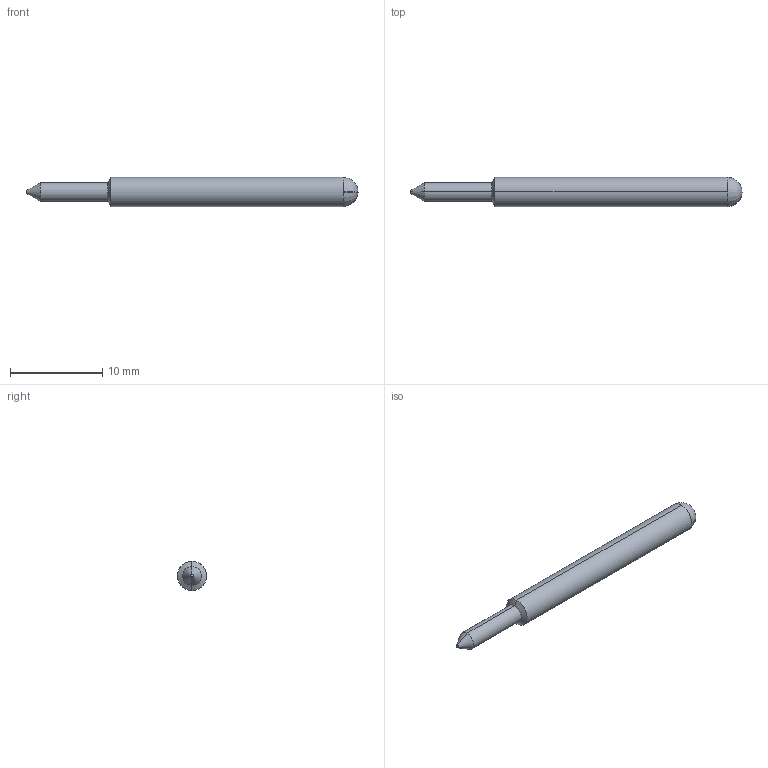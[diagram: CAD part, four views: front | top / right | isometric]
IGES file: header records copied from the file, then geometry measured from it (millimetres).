
Start section: SolidWorks IGES file using analytic representation for surfaces
Global section: file name: Z:\probe solid model mockups\Solidworks models\IGES Files\HCP-15 IGES files\HCP-15B.IGS; native system: SolidWorks 2006 by SolidWorks Corporation; preprocessor: SolidWorks 2006 by SolidWorks Corporation; author: tsakatani; date: 071202.143747; units: inch
Bounding box: 36.07 x 3.17 x 3.17 mm (x, y, z)
Surface area: 326.4 mm2 (no closed solid volume)
Topology: 0 solids, 0 shells, 12 faces, 56 edges, 52 vertices
Faces by surface type: revolution 12
